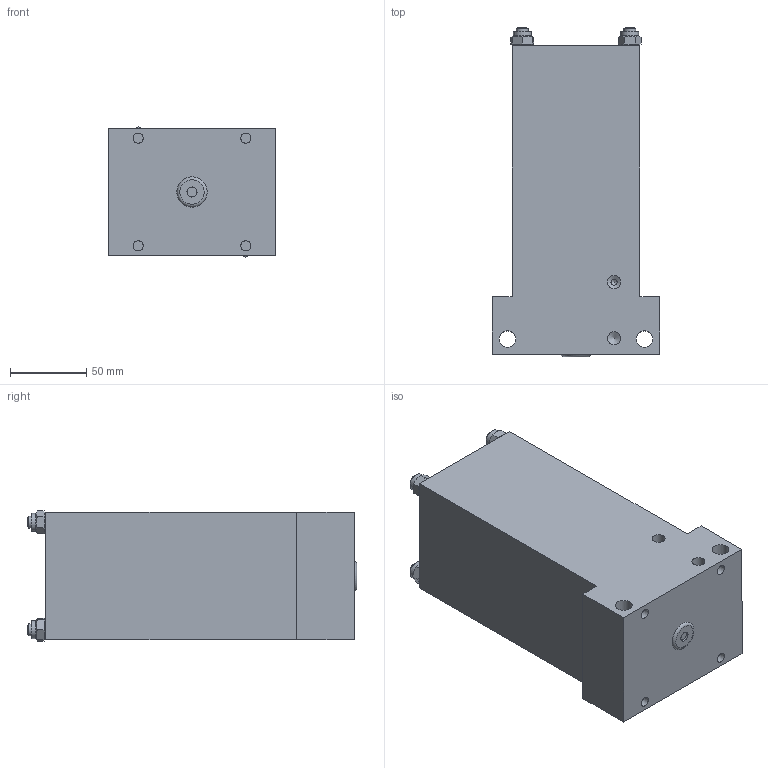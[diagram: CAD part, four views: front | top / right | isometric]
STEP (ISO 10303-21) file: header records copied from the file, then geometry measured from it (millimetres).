
FILE_DESCRIPTION((''),'2;1');
FILE_NAME('C:\VaultWork\Zeichnungen\Maßblätter\Multizylinder\M 75\M75-30\M01792-4-0 Maßblatt Multizylinder M75-6-12 mit zweiter Grundzelle.stp','2013-06-18T16:15:05',('Sergeew'),(''),'Autodesk Inventor 2012','Autodesk Inventor 2012','');
FILE_SCHEMA(('AUTOMOTIVE_DESIGN { 1 0 10303 214 1 1 1 1 }'));
Length unit declared in the file: millimetre
Products named in the file (1): M01792-4-0 Maßblatt Multizylinder M75-6-12 mit zweiter Grundzelle
Bounding box: 110 x 216.5 x 85.72 mm (x, y, z)
Volume: 1496996.2 mm3; surface area: 101930.3 mm2
Topology: 1 solids, 5 shells, 112 faces, 245 edges, 162 vertices
Faces by surface type: plane 61, cylinder 27, cone 23, torus 1
Full cylindrical faces by diameter (mm): 4 x1, 6.647 x5, 8 x8, 8.566 x3, 9 x4, 11 x2, 11.6 x4
Entity records: 2661 total; most frequent: CARTESIAN_POINT 513, DIRECTION 418, ORIENTED_EDGE 336, EDGE_LOOP 186, AXIS2_PLACEMENT_3D 185, EDGE_CURVE 168, VERTEX_POINT 136, FACE_OUTER_BOUND 112
